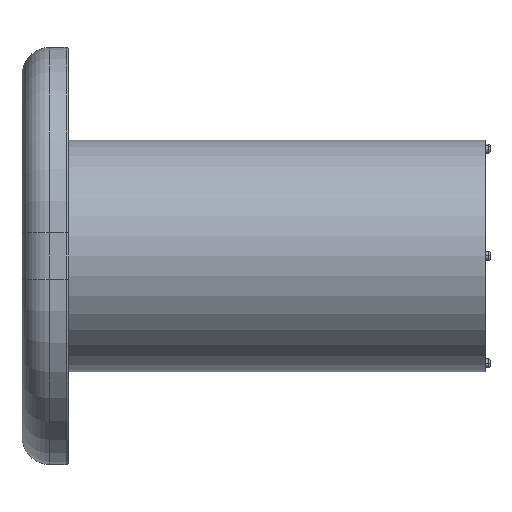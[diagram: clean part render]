
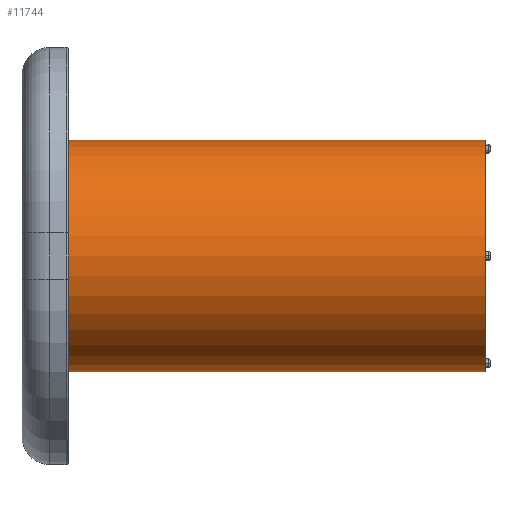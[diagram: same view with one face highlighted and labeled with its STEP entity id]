
A CAD part, left-side view. The second image highlights one B-rep face of the part: STEP entity #11744.
In plain terms, the highlighted cylindrical face has radius 125 mm (diameter 250 mm), a partial arc.
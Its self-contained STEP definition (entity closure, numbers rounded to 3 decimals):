
#298 = CARTESIAN_POINT ( 'NONE',  ( -65.789, -184.369, 29.316 ) ) ;
#670 = CARTESIAN_POINT ( 'NONE',  ( -65.789, -184.369, 154.316 ) ) ;
#1973 = DIRECTION ( 'NONE',  ( 0., 1., 0. ) ) ;
#2059 = CARTESIAN_POINT ( 'NONE',  ( -65.789, -244.369, 154.316 ) ) ;
#2344 = EDGE_LOOP ( 'NONE', ( #42055, #29095, #41086, #53124 ) ) ;
#5200 = CARTESIAN_POINT ( 'NONE',  ( -65.789, 243.631, 29.316 ) ) ;
#6069 = EDGE_CURVE ( 'NONE', #15079, #78114, #16630, .T. ) ;
#10302 = VERTEX_POINT ( 'NONE', #52755 ) ;
#11744 = ADVANCED_FACE ( 'NONE', ( #53231 ), #15776, .T. ) ;
#15079 = VERTEX_POINT ( 'NONE', #2059 ) ;
#15776 = CYLINDRICAL_SURFACE ( 'NONE', #74278, 125. ) ;
#16630 = LINE ( 'NONE', #670, #66811 ) ;
#23746 = DIRECTION ( 'NONE',  ( 0., 1., 0. ) ) ;
#23915 = EDGE_CURVE ( 'NONE', #10302, #78114, #51554, .T. ) ;
#25557 = CARTESIAN_POINT ( 'NONE',  ( -65.789, -244.369, -95.684 ) ) ;
#28129 = DIRECTION ( 'NONE',  ( 0., 1., 0. ) ) ;
#29095 = ORIENTED_EDGE ( 'NONE', *, *, #84277, .F. ) ;
#32402 = DIRECTION ( 'NONE',  ( 0., 0., -1. ) ) ;
#33639 = DIRECTION ( 'NONE',  ( 0., 0., -1. ) ) ;
#41086 = ORIENTED_EDGE ( 'NONE', *, *, #77584, .T. ) ;
#42055 = ORIENTED_EDGE ( 'NONE', *, *, #23915, .F. ) ;
#43502 = CIRCLE ( 'NONE', #45130, 125. ) ;
#44109 = VECTOR ( 'NONE', #98269, 1000. ) ;
#45130 = AXIS2_PLACEMENT_3D ( 'NONE', #70338, #1973, #32402 ) ;
#51554 = CIRCLE ( 'NONE', #52758, 125. ) ;
#52755 = CARTESIAN_POINT ( 'NONE',  ( -65.789, 243.631, -95.684 ) ) ;
#52758 = AXIS2_PLACEMENT_3D ( 'NONE', #5200, #28129, #33639 ) ;
#53124 = ORIENTED_EDGE ( 'NONE', *, *, #6069, .T. ) ;
#53231 = FACE_OUTER_BOUND ( 'NONE', #2344, .T. ) ;
#54570 = DIRECTION ( 'NONE',  ( 0., 1., 0. ) ) ;
#54834 = LINE ( 'NONE', #67809, #44109 ) ;
#66811 = VECTOR ( 'NONE', #54570, 1000. ) ;
#67809 = CARTESIAN_POINT ( 'NONE',  ( -65.789, -184.369, -95.684 ) ) ;
#70338 = CARTESIAN_POINT ( 'NONE',  ( -65.789, -244.369, 29.316 ) ) ;
#74278 = AXIS2_PLACEMENT_3D ( 'NONE', #298, #23746, #98624 ) ;
#77584 = EDGE_CURVE ( 'NONE', #81135, #15079, #43502, .T. ) ;
#78114 = VERTEX_POINT ( 'NONE', #83744 ) ;
#81135 = VERTEX_POINT ( 'NONE', #25557 ) ;
#83744 = CARTESIAN_POINT ( 'NONE',  ( -65.789, 243.631, 154.316 ) ) ;
#84277 = EDGE_CURVE ( 'NONE', #81135, #10302, #54834, .T. ) ;
#98269 = DIRECTION ( 'NONE',  ( 0., 1., 0. ) ) ;
#98624 = DIRECTION ( 'NONE',  ( 0., 0., -1. ) ) ;
